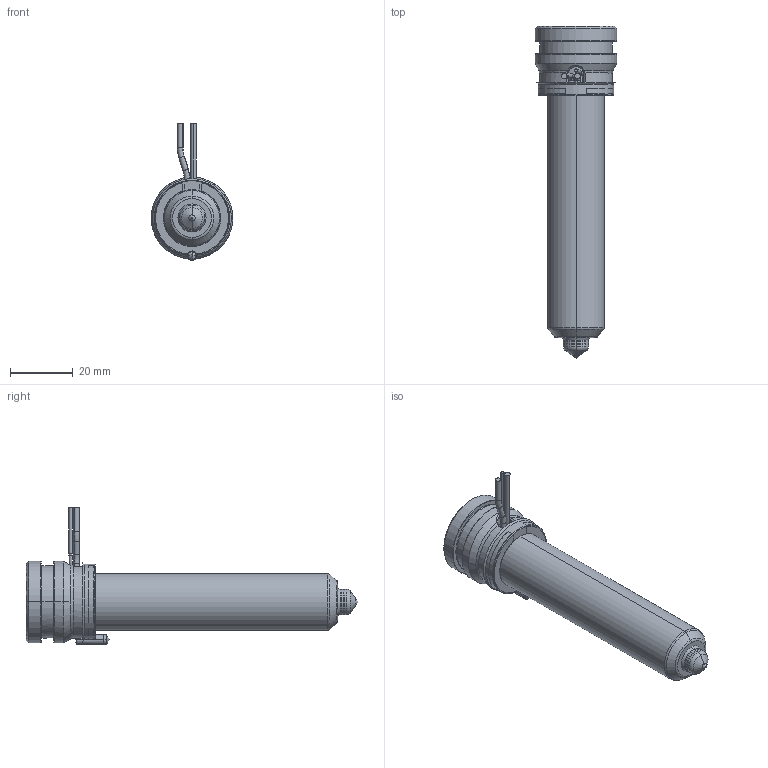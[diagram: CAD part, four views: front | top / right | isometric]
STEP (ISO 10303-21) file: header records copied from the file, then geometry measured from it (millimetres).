
FILE_DESCRIPTION((''),'2;1');
FILE_NAME('MPN-08-24-TX8-086-A','2026-02-05T11:54:27',('UPTIO'),('Thermoplay S.p.A.'),'CREO PARAMETRIC BY PTC INC, 2023494','CREO PARAMETRIC BY PTC INC, 2023494','');
FILE_SCHEMA(('CONFIG_CONTROL_DESIGN','SHAPE_APPEARANCE_LAYERS_GROUPS'));
Length unit declared in the file: millimetre
Products named in the file (1): MPN-08-24-TX8-086-A
Bounding box: 26 x 105.5 x 43.5 mm (x, y, z)
Volume: 21043.2 mm3; surface area: 26204.9 mm2
Topology: 2 solids, 3 shells, 548 faces, 1458 edges, 904 vertices
Faces by surface type: cylinder 180, plane 144, bspline 82, torus 64, cone 60, sphere 12, extrusion 6
Entity records: 29718 total; most frequent: CARTESIAN_POINT 13372, ORIENTED_EDGE 2896, DIRECTION 2574, EDGE_CURVE 1448, AXIS2_PLACEMENT_3D 1006, VERTEX_POINT 904, EDGE_LOOP 576, VECTOR 562
